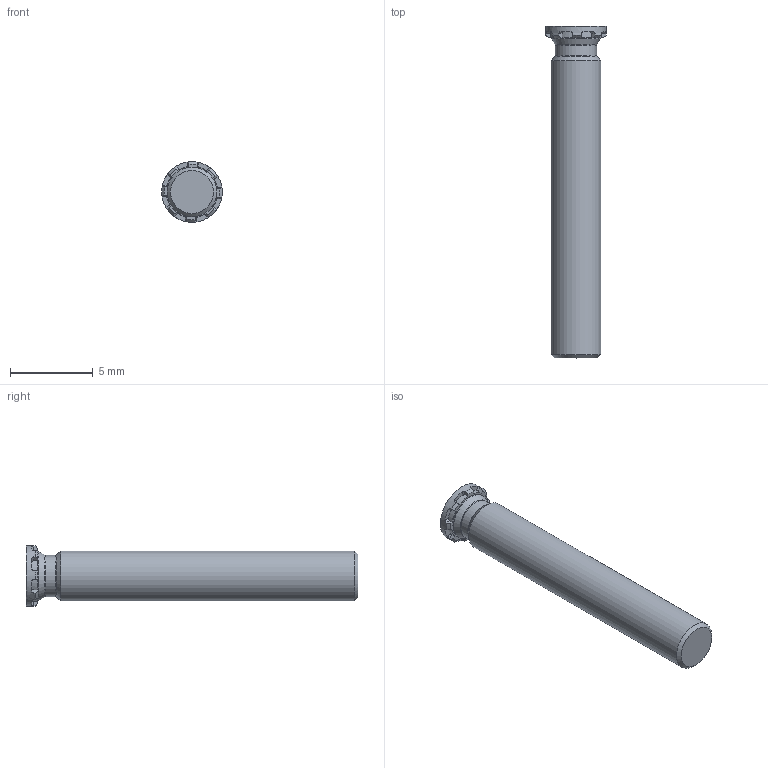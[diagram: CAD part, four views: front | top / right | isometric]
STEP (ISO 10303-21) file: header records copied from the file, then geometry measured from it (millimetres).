
FILE_DESCRIPTION(/* description */ (''),/* implementation_level */ '2;1');
FILE_NAME(/* name */ 'C:\Users\keval.kumar\Desktop\Fastit\Clinch Screw- Reduced FH Range\M3\Clinch Screw-Reduced FH Range_M3x20.stp',/* time_stamp */ '2024-03-12T12:55:02+05:00',/* author */ ('keval.kumar'),/* organization */ (''),/* preprocessor_version */ 'ST-DEVELOPER v18.1',/* originating_system */ 'Autodesk Inventor 2022',/* authorisation */ '');
FILE_SCHEMA (('AUTOMOTIVE_DESIGN { 1 0 10303 214 3 1 1 }'));
Length unit declared in the file: millimetre
Products named in the file (1): Clinch Screw-Reduced FH Range_M3x20
Bounding box: 3.65 x 20 x 3.65 mm (x, y, z)
Volume: 140.6 mm3; surface area: 209.8 mm2
Topology: 1 solids, 1 shells, 68 faces, 193 edges, 128 vertices
Faces by surface type: plane 43, cylinder 12, cone 11, torus 2
Full cylindrical faces by diameter (mm): 2.5 x1, 2.9 x1, 3 x1, 3.65 x1
Entity records: 2278 total; most frequent: CARTESIAN_POINT 422, DIRECTION 405, ORIENTED_EDGE 386, EDGE_CURVE 193, AXIS2_PLACEMENT_3D 159, VERTEX_POINT 128, LINE 87, VECTOR 87
